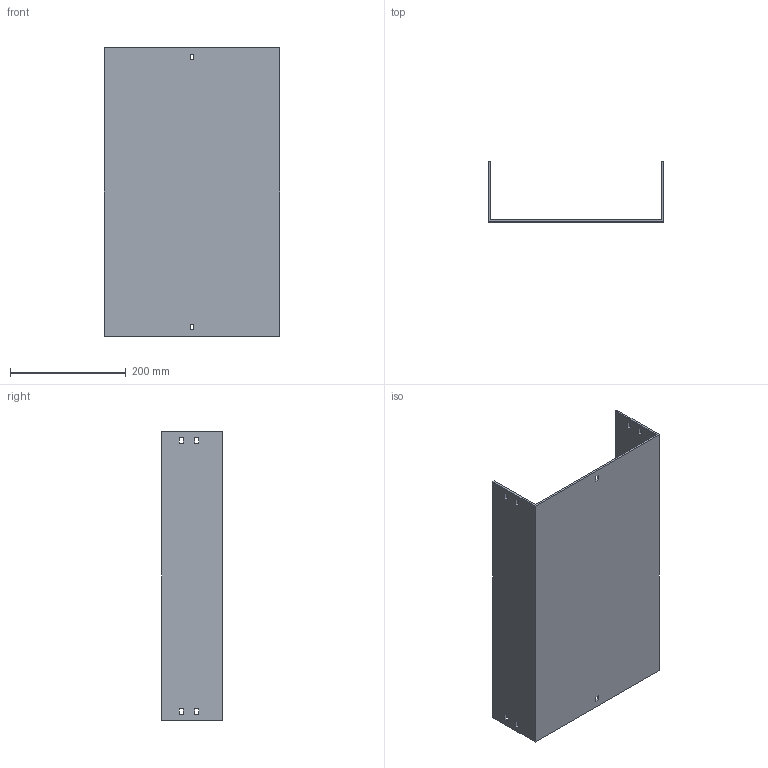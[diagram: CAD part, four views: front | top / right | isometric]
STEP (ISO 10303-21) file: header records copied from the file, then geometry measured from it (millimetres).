
FILE_DESCRIPTION (( 'STEP AP214' ), '1' );
FILE_NAME ('03F7D300.step', '2025-02-21T13:16:47', ( '' ), ( '' ), 'SwSTEP 2.0', 'SolidWorks 2023', '' );
FILE_SCHEMA (( 'AUTOMOTIVE_DESIGN' ));
Length unit declared in the file: millimetre
Products named in the file (1): 03F7D300
Bounding box: 304 x 104 x 500 mm (x, y, z)
Volume: 881380.5 mm3; surface area: 511850 mm2
Topology: 1 solids, 1 shells, 50 faces, 144 edges, 96 vertices
Faces by surface type: plane 50
Entity records: 1671 total; most frequent: CARTESIAN_POINT 291, ORIENTED_EDGE 288, DIRECTION 246, VECTOR 144, LINE 144, EDGE_CURVE 144, VERTEX_POINT 96, EDGE_LOOP 70
